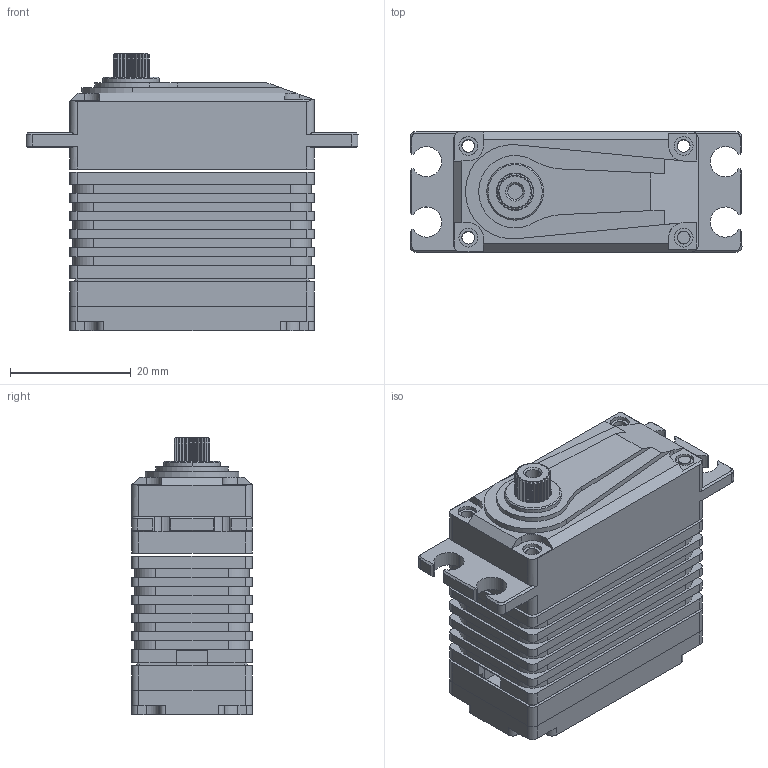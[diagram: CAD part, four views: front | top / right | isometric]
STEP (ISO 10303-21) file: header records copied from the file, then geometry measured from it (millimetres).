
FILE_DESCRIPTION (( 'STEP AP214' ), '1' );
FILE_NAME ('MS4512_DM.STEP', '2023-11-08T06:03:28', ( '' ), ( '' ), 'SwSTEP 2.0', 'SolidWorks 2016', '' );
FILE_SCHEMA (( 'AUTOMOTIVE_DESIGN' ));
Length unit declared in the file: millimetre
Products named in the file (1): MS4512_DM
Bounding box: 55 x 20 x 46 mm (x, y, z)
Surface area: 11125.6 mm2 (no closed solid volume)
Topology: 0 solids, 12 shells, 474 faces, 1442 edges, 996 vertices
Faces by surface type: plane 240, cylinder 189, cone 41, bspline 4
Entity records: 22070 total; most frequent: CARTESIAN_POINT 3815, DIRECTION 2724, ORIENTED_EDGE 2655, EDGE_CURVE 1442, VERTEX_POINT 996, AXIS2_PLACEMENT_3D 940, VECTOR 844, LINE 844
